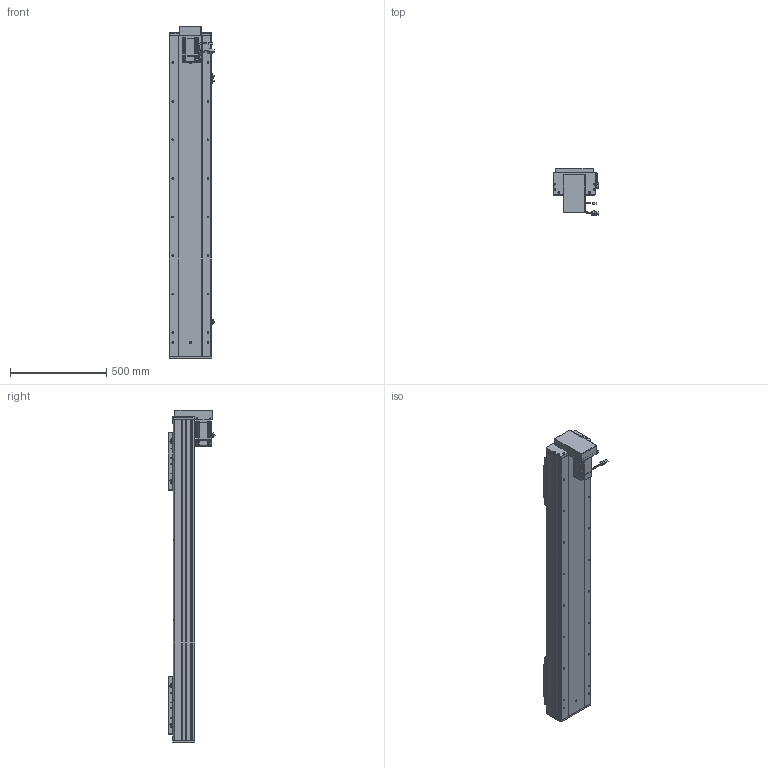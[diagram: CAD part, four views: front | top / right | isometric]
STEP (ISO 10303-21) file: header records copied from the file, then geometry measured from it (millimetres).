
FILE_DESCRIPTION (( 'STEP AP203' ), '1' );
FILE_NAME ('RY220F-L2525-300-BK.SLDASM_1250.step', '2022-07-04T01:21:04', ( '' ), ( '' ), 'SwSTEP 2.0', 'SolidWorks 2016', '' );
FILE_SCHEMA (( 'CONFIG_CONTROL_DESIGN' ));
Length unit declared in the file: millimetre
Products named in the file (15): RY220F綴裔啣; RY220F-祥凄詩湍-蛌殏-300_1250; RY220F-詩湍揤踡輸; RY220F-蛌殏奻裔啣-300_1250; 侐源滅袉蝶; 覜茼ん672; RY220F-672覜茼んえ; RY220狟殏萇儂欶; RY220F蛌殏菁釱-300_1250; RY220F-L2525-300-BK.SLDASM_1250; RY220F-滅鳥奻裔; 滅袉蝶18-24; RY220F臏賑釱25-32佪裝; RY220狟殏萇儂假蚾啣; 怢湛750W_ECMA-CX0807ES
Assembly tree (24 placements, depth 2):
  RY220F-L2525-300-BK.SLDASM_1250
    RY220F蛌殏菁釱-300_1250
    RY220F-蛌殏奻裔啣-300_1250  x2
    怢湛750W_ECMA-CX0807ES
    RY220F臏賑釱25-32佪裝  x2
    RY220F-滅鳥奻裔  x2
    滅袉蝶18-24  x3
    RY220F綴裔啣
    RY220F-祥凄詩湍-蛌殏-300_1250
    RY220F-詩湍揤踡輸  x2
    覜茼ん672  x3
    RY220F-672覜茼んえ  x2
    侐源滅袉蝶  x2
    RY220狟殏萇儂假蚾啣
    RY220狟殏萇儂欶
Bounding box: 237.27 x 247.24 x 1721 mm (x, y, z)
Volume: 16072259.1 mm3; surface area: 4171918 mm2
Topology: 25 solids, 25 shells, 2795 faces, 7594 edges, 4693 vertices
Faces by surface type: cylinder 1246, plane 1062, cone 416, bspline 45, sphere 16, torus 10
Entity records: 69373 total; most frequent: CARTESIAN_POINT 18775, ORIENTED_EDGE 10226, DIRECTION 9941, EDGE_CURVE 5113, AXIS2_PLACEMENT_3D 3526, VERTEX_POINT 3309, VECTOR 2889, LINE 2889
